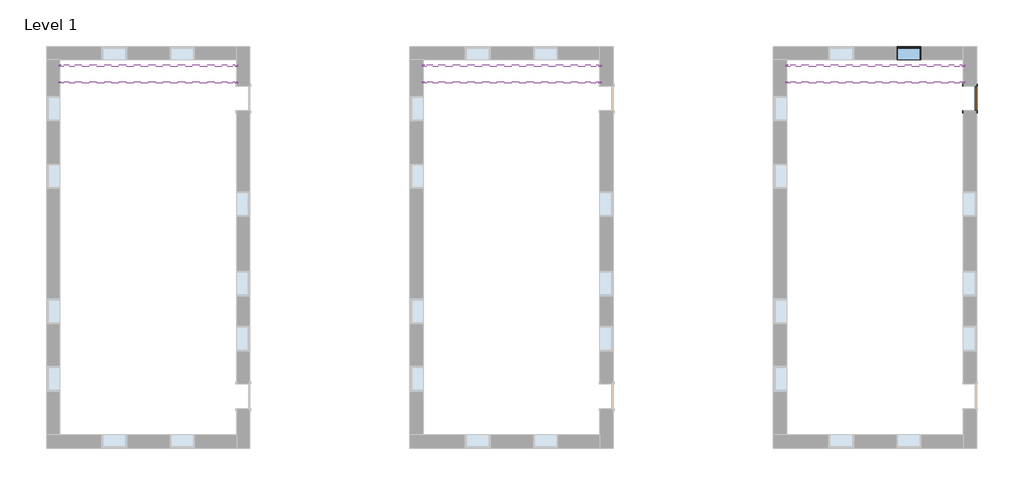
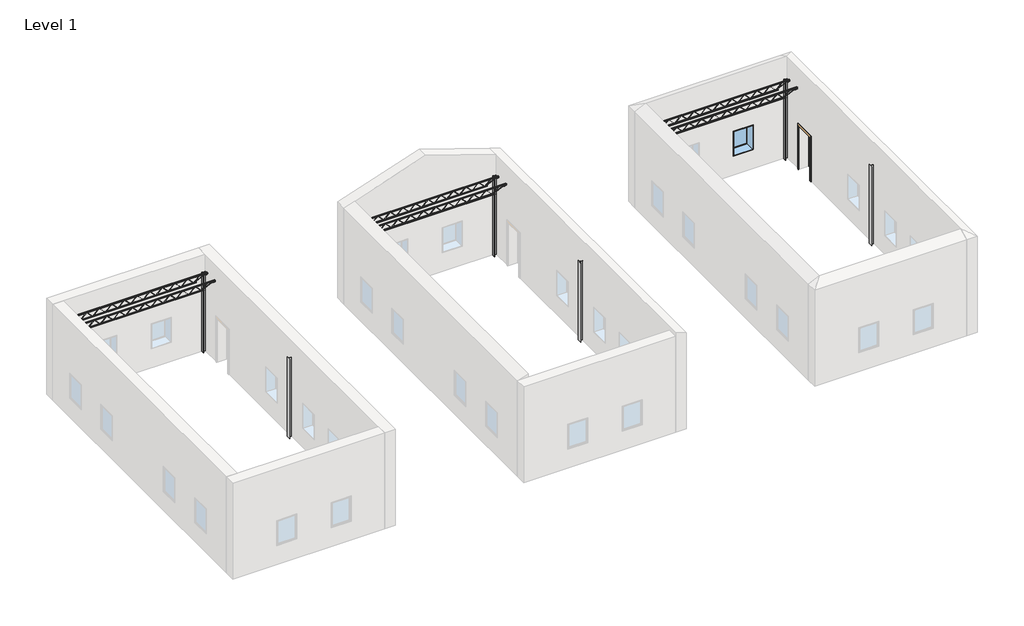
# One storey, part 2 of 2: 18 columns, 6 beams, 1 door, 1 window.
"""IFC4 building model written with IfcOpenShell, lengths in millimetres."""

from ifc_helpers import new_model, si_unit, point, frame_2d, origin, origin_with_axes, place, context, project, spatial, polyline, circle_curve, trimmed, segment, composite_curve, outline, extrude, transform, mapped, element, save
from components import k_series_bar_joist_rod_web_12k1_aec08bc9, door_7d4dd929, window_eeedf783

model = new_model("IFC4")

# Units and contexts
model_context = context("Model", 3, world=origin())
ifc_project = project(units=[si_unit("LENGTHUNIT", "METRE", prefix="MILLI")], contexts=[model_context])

# Site, building, storey
site = spatial("IfcSite", under=ifc_project)
building = spatial("IfcBuilding", under=site)
storey = spatial("IfcBuildingStorey", under=building, Name="Level 1", Elevation=0.0)

# Beams
placement = place(None, origin())
k_series_bar_joist_rod_web_12k1_shape = k_series_bar_joist_rod_web_12k1_aec08bc9(model_context)
element("IfcBeam", 1, ObjectType="K-Series Bar Joist-Rod Web : 12K1", at=placement, inside=storey, context=model_context, shape_type="MappedRepresentation", body=[
    mapped(k_series_bar_joist_rod_web_12k1_shape, transform((-24771.7944089, 9092.3351523, 3771.9), x_axis=(1.0, 0.0, 0.0), y_axis=(0.0, 1.0, 0.0), z_axis=(0.0, 0.0, 1.0))),
])
element("IfcBeam", 2, ObjectType="K-Series Bar Joist-Rod Web : 12K1", at=placement, inside=storey, context=model_context, shape_type="MappedRepresentation", body=[
    mapped(k_series_bar_joist_rod_web_12k1_shape, transform((-24771.7944089, 9701.9351523, 3771.9), x_axis=(1.0, 0.0, 0.0), y_axis=(0.0, 1.0, 0.0), z_axis=(0.0, 0.0, 1.0))),
])
element("IfcBeam", 3, ObjectType="K-Series Bar Joist-Rod Web : 12K1", at=placement, inside=storey, context=model_context, shape_type="MappedRepresentation", body=[
    mapped(k_series_bar_joist_rod_web_12k1_shape, transform((-11360.5944089, 9092.3351523, 3771.9), x_axis=(1.0, 0.0, 0.0), y_axis=(0.0, 1.0, 0.0), z_axis=(0.0, 0.0, 1.0))),
])
element("IfcBeam", 4, ObjectType="K-Series Bar Joist-Rod Web : 12K1", at=placement, inside=storey, context=model_context, shape_type="MappedRepresentation", body=[
    mapped(k_series_bar_joist_rod_web_12k1_shape, transform((-11360.5944089, 9701.9351523, 3771.9), x_axis=(1.0, 0.0, 0.0), y_axis=(0.0, 1.0, 0.0), z_axis=(0.0, 0.0, 1.0))),
])
element("IfcBeam", 5, ObjectType="K-Series Bar Joist-Rod Web : 12K1", at=placement, inside=storey, context=model_context, shape_type="MappedRepresentation", body=[
    mapped(k_series_bar_joist_rod_web_12k1_shape, transform((2050.6055911, 9092.3351523, 3771.9), x_axis=(1.0, 0.0, 0.0), y_axis=(0.0, 1.0, 0.0), z_axis=(0.0, 0.0, 1.0))),
])
element("IfcBeam", 6, ObjectType="K-Series Bar Joist-Rod Web : 12K1", at=placement, inside=storey, context=model_context, shape_type="MappedRepresentation", body=[
    mapped(k_series_bar_joist_rod_web_12k1_shape, transform((2050.6055911, 9701.9351523, 3771.9), x_axis=(1.0, 0.0, 0.0), y_axis=(0.0, 1.0, 0.0), z_axis=(0.0, 0.0, 1.0))),
])

# Columns
element("IfcColumn", 7, ObjectType="W-Wide Flange-Column1 : W10X33 2", at=placement, inside=storey, context=model_context, shape_type="SweptSolid", body=[
    extrude(outline(composite_curve([segment(polyline([(-21669.571362, -3785.9609414), (-21658.5580808, -3785.9609414), (-21658.5580808, -3865.8320352)]), True, "CONTINUOUS"), segment(trimmed(circle_curve(frame_2d((-21640.996362, -3865.8320352)), 17.5617188), [point((-21658.5580808, -3865.8320352))], [point((-21640.996362, -3883.3937539))], True, "CARTESIAN"), True, "CONTINUOUS"), segment(polyline([(-21640.996362, -3883.3937539), (-21450.9924558, -3883.3937539)]), True, "CONTINUOUS"), segment(trimmed(circle_curve(frame_2d((-21450.9924558, -3865.8320352)), 17.5617188), [point((-21450.9924558, -3883.3937539))], [point((-21433.430737, -3865.8320352))], True, "CARTESIAN"), True, "CONTINUOUS"), segment(polyline([(-21433.430737, -3865.8320352), (-21433.430737, -3785.9609414), (-21422.4174558, -3785.9609414), (-21422.4174558, -3988.1687539), (-21433.430737, -3988.1687539), (-21433.430737, -3908.2976602)]), True, "CONTINUOUS"), segment(trimmed(circle_curve(frame_2d((-21450.9924558, -3908.2976602)), 17.5617187), [point((-21433.430737, -3908.2976602))], [point((-21450.9924558, -3890.7359414))], True, "CARTESIAN"), True, "CONTINUOUS"), segment(polyline([(-21450.9924558, -3890.7359414), (-21640.996362, -3890.7359414)]), True, "CONTINUOUS"), segment(trimmed(circle_curve(frame_2d((-21640.996362, -3908.2976602)), 17.5617188), [point((-21640.996362, -3890.7359414))], [point((-21658.5580808, -3908.2976602))], True, "CARTESIAN"), True, "CONTINUOUS"), segment(polyline([(-21658.5580808, -3908.2976602), (-21658.5580808, -3988.1687539), (-21669.571362, -3988.1687539), (-21669.571362, -3785.9609414)]), True, "CONTINUOUS")], self_intersect=False)), origin_with_axes(), (0.0, 0.0, 1.0), 3860.8),
])
element("IfcColumn", 8, ObjectType="W-Wide Flange-Column1 : W10X33 2", at=placement, inside=storey, context=model_context, shape_type="SweptSolid", body=[
    extrude(outline(composite_curve([segment(polyline([(-28121.171362, 3097.4390586), (-28110.1580808, 3097.4390586), (-28110.1580808, 3017.5679648)]), True, "CONTINUOUS"), segment(trimmed(circle_curve(frame_2d((-28092.596362, 3017.5679648)), 17.5617188), [point((-28110.1580808, 3017.5679648))], [point((-28092.596362, 3000.0062461))], True, "CARTESIAN"), True, "CONTINUOUS"), segment(polyline([(-28092.596362, 3000.0062461), (-27902.5924558, 3000.0062461)]), True, "CONTINUOUS"), segment(trimmed(circle_curve(frame_2d((-27902.5924558, 3017.5679648)), 17.5617188), [point((-27902.5924558, 3000.0062461))], [point((-27885.030737, 3017.5679648))], True, "CARTESIAN"), True, "CONTINUOUS"), segment(polyline([(-27885.030737, 3017.5679648), (-27885.030737, 3097.4390586), (-27874.0174558, 3097.4390586), (-27874.0174558, 2895.2312461), (-27885.030737, 2895.2312461), (-27885.030737, 2975.1023398)]), True, "CONTINUOUS"), segment(trimmed(circle_curve(frame_2d((-27902.5924558, 2975.1023398)), 17.5617187), [point((-27885.030737, 2975.1023398))], [point((-27902.5924558, 2992.6640586))], True, "CARTESIAN"), True, "CONTINUOUS"), segment(polyline([(-27902.5924558, 2992.6640586), (-28092.596362, 2992.6640586)]), True, "CONTINUOUS"), segment(trimmed(circle_curve(frame_2d((-28092.596362, 2975.1023398)), 17.5617188), [point((-28092.596362, 2992.6640586))], [point((-28110.1580808, 2975.1023398))], True, "CARTESIAN"), True, "CONTINUOUS"), segment(polyline([(-28110.1580808, 2975.1023398), (-28110.1580808, 2895.2312461), (-28121.171362, 2895.2312461), (-28121.171362, 3097.4390586)]), True, "CONTINUOUS")], self_intersect=False)), origin_with_axes(), (0.0, 0.0, 1.0), 3987.8),
])
element("IfcColumn", 9, ObjectType="W-Wide Flange-Column1 : W10X33 2", at=placement, inside=storey, context=model_context, shape_type="SweptSolid", body=[
    extrude(outline(composite_curve([segment(polyline([(-28121.171362, -3785.9609414), (-28110.1580808, -3785.9609414), (-28110.1580808, -3865.8320352)]), True, "CONTINUOUS"), segment(trimmed(circle_curve(frame_2d((-28092.596362, -3865.8320352)), 17.5617188), [point((-28110.1580808, -3865.8320352))], [point((-28092.596362, -3883.3937539))], True, "CARTESIAN"), True, "CONTINUOUS"), segment(polyline([(-28092.596362, -3883.3937539), (-27902.5924558, -3883.3937539)]), True, "CONTINUOUS"), segment(trimmed(circle_curve(frame_2d((-27902.5924558, -3865.8320352)), 17.5617188), [point((-27902.5924558, -3883.3937539))], [point((-27885.030737, -3865.8320352))], True, "CARTESIAN"), True, "CONTINUOUS"), segment(polyline([(-27885.030737, -3865.8320352), (-27885.030737, -3785.9609414), (-27874.0174558, -3785.9609414), (-27874.0174558, -3988.1687539), (-27885.030737, -3988.1687539), (-27885.030737, -3908.2976602)]), True, "CONTINUOUS"), segment(trimmed(circle_curve(frame_2d((-27902.5924558, -3908.2976602)), 17.5617187), [point((-27885.030737, -3908.2976602))], [point((-27902.5924558, -3890.7359414))], True, "CARTESIAN"), True, "CONTINUOUS"), segment(polyline([(-27902.5924558, -3890.7359414), (-28092.596362, -3890.7359414)]), True, "CONTINUOUS"), segment(trimmed(circle_curve(frame_2d((-28092.596362, -3908.2976602)), 17.5617188), [point((-28092.596362, -3890.7359414))], [point((-28110.1580808, -3908.2976602))], True, "CARTESIAN"), True, "CONTINUOUS"), segment(polyline([(-28110.1580808, -3908.2976602), (-28110.1580808, -3988.1687539), (-28121.171362, -3988.1687539), (-28121.171362, -3785.9609414)]), True, "CONTINUOUS")], self_intersect=False)), origin_with_axes(), (0.0, 0.0, 1.0), 3987.8),
])
element("IfcColumn", 10, ObjectType="W-Wide Flange-Column1 : W10X33 2", at=placement, inside=storey, context=model_context, shape_type="SweptSolid", body=[
    extrude(outline(composite_curve([segment(polyline([(-21669.571362, 3097.4390586), (-21658.5580808, 3097.4390586), (-21658.5580808, 3017.5679648)]), True, "CONTINUOUS"), segment(trimmed(circle_curve(frame_2d((-21640.996362, 3017.5679648)), 17.5617188), [point((-21658.5580808, 3017.5679648))], [point((-21640.996362, 3000.0062461))], True, "CARTESIAN"), True, "CONTINUOUS"), segment(polyline([(-21640.996362, 3000.0062461), (-21450.9924558, 3000.0062461)]), True, "CONTINUOUS"), segment(trimmed(circle_curve(frame_2d((-21450.9924558, 3017.5679648)), 17.5617188), [point((-21450.9924558, 3000.0062461))], [point((-21433.430737, 3017.5679648))], True, "CARTESIAN"), True, "CONTINUOUS"), segment(polyline([(-21433.430737, 3017.5679648), (-21433.430737, 3097.4390586), (-21422.4174558, 3097.4390586), (-21422.4174558, 2895.2312461), (-21433.430737, 2895.2312461), (-21433.430737, 2975.1023398)]), True, "CONTINUOUS"), segment(trimmed(circle_curve(frame_2d((-21450.9924558, 2975.1023398)), 17.5617187), [point((-21433.430737, 2975.1023398))], [point((-21450.9924558, 2992.6640586))], True, "CARTESIAN"), True, "CONTINUOUS"), segment(polyline([(-21450.9924558, 2992.6640586), (-21640.996362, 2992.6640586)]), True, "CONTINUOUS"), segment(trimmed(circle_curve(frame_2d((-21640.996362, 2975.1023398)), 17.5617188), [point((-21640.996362, 2992.6640586))], [point((-21658.5580808, 2975.1023398))], True, "CARTESIAN"), True, "CONTINUOUS"), segment(polyline([(-21658.5580808, 2975.1023398), (-21658.5580808, 2895.2312461), (-21669.571362, 2895.2312461), (-21669.571362, 3097.4390586)]), True, "CONTINUOUS")], self_intersect=False)), origin_with_axes(), (0.0, 0.0, 1.0), 3860.8),
])
element("IfcColumn", 11, ObjectType="W-Wide Flange-Column1 : W10X33 2", at=placement, inside=storey, context=model_context, shape_type="SweptSolid", body=[
    extrude(outline(composite_curve([segment(polyline([(-28121.171362, 9980.8390586), (-28110.1580808, 9980.8390586), (-28110.1580808, 9900.9679648)]), True, "CONTINUOUS"), segment(trimmed(circle_curve(frame_2d((-28092.596362, 9900.9679648)), 17.5617188), [point((-28110.1580808, 9900.9679648))], [point((-28092.596362, 9883.4062461))], True, "CARTESIAN"), True, "CONTINUOUS"), segment(polyline([(-28092.596362, 9883.4062461), (-27902.5924558, 9883.4062461)]), True, "CONTINUOUS"), segment(trimmed(circle_curve(frame_2d((-27902.5924558, 9900.9679648)), 17.5617188), [point((-27902.5924558, 9883.4062461))], [point((-27885.030737, 9900.9679648))], True, "CARTESIAN"), True, "CONTINUOUS"), segment(polyline([(-27885.030737, 9900.9679648), (-27885.030737, 9980.8390586), (-27874.0174558, 9980.8390586), (-27874.0174558, 9778.6312461), (-27885.030737, 9778.6312461), (-27885.030737, 9858.5023398)]), True, "CONTINUOUS"), segment(trimmed(circle_curve(frame_2d((-27902.5924558, 9858.5023398)), 17.5617187), [point((-27885.030737, 9858.5023398))], [point((-27902.5924558, 9876.0640586))], True, "CARTESIAN"), True, "CONTINUOUS"), segment(polyline([(-27902.5924558, 9876.0640586), (-28092.596362, 9876.0640586)]), True, "CONTINUOUS"), segment(trimmed(circle_curve(frame_2d((-28092.596362, 9858.5023398)), 17.5617188), [point((-28092.596362, 9876.0640586))], [point((-28110.1580808, 9858.5023398))], True, "CARTESIAN"), True, "CONTINUOUS"), segment(polyline([(-28110.1580808, 9858.5023398), (-28110.1580808, 9778.6312461), (-28121.171362, 9778.6312461), (-28121.171362, 9980.8390586)]), True, "CONTINUOUS")], self_intersect=False)), origin_with_axes(), (0.0, 0.0, 1.0), 3987.8),
])
element("IfcColumn", 12, ObjectType="W-Wide Flange-Column1 : W10X33 2", at=placement, inside=storey, context=model_context, shape_type="SweptSolid", body=[
    extrude(outline(composite_curve([segment(polyline([(-21669.571362, 9980.8390586), (-21658.5580808, 9980.8390586), (-21658.5580808, 9900.9679648)]), True, "CONTINUOUS"), segment(trimmed(circle_curve(frame_2d((-21640.996362, 9900.9679648)), 17.5617188), [point((-21658.5580808, 9900.9679648))], [point((-21640.996362, 9883.4062461))], True, "CARTESIAN"), True, "CONTINUOUS"), segment(polyline([(-21640.996362, 9883.4062461), (-21450.9924558, 9883.4062461)]), True, "CONTINUOUS"), segment(trimmed(circle_curve(frame_2d((-21450.9924558, 9900.9679648)), 17.5617188), [point((-21450.9924558, 9883.4062461))], [point((-21433.430737, 9900.9679648))], True, "CARTESIAN"), True, "CONTINUOUS"), segment(polyline([(-21433.430737, 9900.9679648), (-21433.430737, 9980.8390586), (-21422.4174558, 9980.8390586), (-21422.4174558, 9778.6312461), (-21433.430737, 9778.6312461), (-21433.430737, 9858.5023398)]), True, "CONTINUOUS"), segment(trimmed(circle_curve(frame_2d((-21450.9924558, 9858.5023398)), 17.5617187), [point((-21433.430737, 9858.5023398))], [point((-21450.9924558, 9876.0640586))], True, "CARTESIAN"), True, "CONTINUOUS"), segment(polyline([(-21450.9924558, 9876.0640586), (-21640.996362, 9876.0640586)]), True, "CONTINUOUS"), segment(trimmed(circle_curve(frame_2d((-21640.996362, 9858.5023398)), 17.5617188), [point((-21640.996362, 9876.0640586))], [point((-21658.5580808, 9858.5023398))], True, "CARTESIAN"), True, "CONTINUOUS"), segment(polyline([(-21658.5580808, 9858.5023398), (-21658.5580808, 9778.6312461), (-21669.571362, 9778.6312461), (-21669.571362, 9980.8390586)]), True, "CONTINUOUS")], self_intersect=False)), origin_with_axes(), (0.0, 0.0, 1.0), 3860.8),
])
element("IfcColumn", 13, ObjectType="W-Wide Flange-Column1 : W10X33 2", at=placement, inside=storey, context=model_context, shape_type="SweptSolid", body=[
    extrude(outline(composite_curve([segment(polyline([(-8258.371362, -3785.9609414), (-8247.3580808, -3785.9609414), (-8247.3580808, -3865.8320352)]), True, "CONTINUOUS"), segment(trimmed(circle_curve(frame_2d((-8229.796362, -3865.8320352)), 17.5617188), [point((-8247.3580808, -3865.8320352))], [point((-8229.796362, -3883.3937539))], True, "CARTESIAN"), True, "CONTINUOUS"), segment(polyline([(-8229.796362, -3883.3937539), (-8039.7924558, -3883.3937539)]), True, "CONTINUOUS"), segment(trimmed(circle_curve(frame_2d((-8039.7924558, -3865.8320352)), 17.5617188), [point((-8039.7924558, -3883.3937539))], [point((-8022.230737, -3865.8320352))], True, "CARTESIAN"), True, "CONTINUOUS"), segment(polyline([(-8022.230737, -3865.8320352), (-8022.230737, -3785.9609414), (-8011.2174558, -3785.9609414), (-8011.2174558, -3988.1687539), (-8022.230737, -3988.1687539), (-8022.230737, -3908.2976602)]), True, "CONTINUOUS"), segment(trimmed(circle_curve(frame_2d((-8039.7924558, -3908.2976602)), 17.5617187), [point((-8022.230737, -3908.2976602))], [point((-8039.7924558, -3890.7359414))], True, "CARTESIAN"), True, "CONTINUOUS"), segment(polyline([(-8039.7924558, -3890.7359414), (-8229.796362, -3890.7359414)]), True, "CONTINUOUS"), segment(trimmed(circle_curve(frame_2d((-8229.796362, -3908.2976602)), 17.5617188), [point((-8229.796362, -3890.7359414))], [point((-8247.3580808, -3908.2976602))], True, "CARTESIAN"), True, "CONTINUOUS"), segment(polyline([(-8247.3580808, -3908.2976602), (-8247.3580808, -3988.1687539), (-8258.371362, -3988.1687539), (-8258.371362, -3785.9609414)]), True, "CONTINUOUS")], self_intersect=False)), origin_with_axes(), (0.0, 0.0, 1.0), 3860.8),
])
element("IfcColumn", 14, ObjectType="W-Wide Flange-Column1 : W10X33 2", at=placement, inside=storey, context=model_context, shape_type="SweptSolid", body=[
    extrude(outline(composite_curve([segment(polyline([(-14709.971362, 3097.4390586), (-14698.9580808, 3097.4390586), (-14698.9580808, 3017.5679648)]), True, "CONTINUOUS"), segment(trimmed(circle_curve(frame_2d((-14681.396362, 3017.5679648)), 17.5617188), [point((-14698.9580808, 3017.5679648))], [point((-14681.396362, 3000.0062461))], True, "CARTESIAN"), True, "CONTINUOUS"), segment(polyline([(-14681.396362, 3000.0062461), (-14491.3924558, 3000.0062461)]), True, "CONTINUOUS"), segment(trimmed(circle_curve(frame_2d((-14491.3924558, 3017.5679648)), 17.5617188), [point((-14491.3924558, 3000.0062461))], [point((-14473.830737, 3017.5679648))], True, "CARTESIAN"), True, "CONTINUOUS"), segment(polyline([(-14473.830737, 3017.5679648), (-14473.830737, 3097.4390586), (-14462.8174558, 3097.4390586), (-14462.8174558, 2895.2312461), (-14473.830737, 2895.2312461), (-14473.830737, 2975.1023398)]), True, "CONTINUOUS"), segment(trimmed(circle_curve(frame_2d((-14491.3924558, 2975.1023398)), 17.5617188), [point((-14473.830737, 2975.1023398))], [point((-14491.3924558, 2992.6640586))], True, "CARTESIAN"), True, "CONTINUOUS"), segment(polyline([(-14491.3924558, 2992.6640586), (-14681.396362, 2992.6640586)]), True, "CONTINUOUS"), segment(trimmed(circle_curve(frame_2d((-14681.396362, 2975.1023398)), 17.5617188), [point((-14681.396362, 2992.6640586))], [point((-14698.9580808, 2975.1023398))], True, "CARTESIAN"), True, "CONTINUOUS"), segment(polyline([(-14698.9580808, 2975.1023398), (-14698.9580808, 2895.2312461), (-14709.971362, 2895.2312461), (-14709.971362, 3097.4390586)]), True, "CONTINUOUS")], self_intersect=False)), origin_with_axes(), (0.0, 0.0, 1.0), 3987.8),
])
element("IfcColumn", 15, ObjectType="W-Wide Flange-Column1 : W10X33 2", at=placement, inside=storey, context=model_context, shape_type="SweptSolid", body=[
    extrude(outline(composite_curve([segment(polyline([(-14709.971362, -3785.9609414), (-14698.9580808, -3785.9609414), (-14698.9580808, -3865.8320352)]), True, "CONTINUOUS"), segment(trimmed(circle_curve(frame_2d((-14681.396362, -3865.8320352)), 17.5617188), [point((-14698.9580808, -3865.8320352))], [point((-14681.396362, -3883.3937539))], True, "CARTESIAN"), True, "CONTINUOUS"), segment(polyline([(-14681.396362, -3883.3937539), (-14491.3924558, -3883.3937539)]), True, "CONTINUOUS"), segment(trimmed(circle_curve(frame_2d((-14491.3924558, -3865.8320352)), 17.5617188), [point((-14491.3924558, -3883.3937539))], [point((-14473.830737, -3865.8320352))], True, "CARTESIAN"), True, "CONTINUOUS"), segment(polyline([(-14473.830737, -3865.8320352), (-14473.830737, -3785.9609414), (-14462.8174558, -3785.9609414), (-14462.8174558, -3988.1687539), (-14473.830737, -3988.1687539), (-14473.830737, -3908.2976602)]), True, "CONTINUOUS"), segment(trimmed(circle_curve(frame_2d((-14491.3924558, -3908.2976602)), 17.5617188), [point((-14473.830737, -3908.2976602))], [point((-14491.3924558, -3890.7359414))], True, "CARTESIAN"), True, "CONTINUOUS"), segment(polyline([(-14491.3924558, -3890.7359414), (-14681.396362, -3890.7359414)]), True, "CONTINUOUS"), segment(trimmed(circle_curve(frame_2d((-14681.396362, -3908.2976602)), 17.5617188), [point((-14681.396362, -3890.7359414))], [point((-14698.9580808, -3908.2976602))], True, "CARTESIAN"), True, "CONTINUOUS"), segment(polyline([(-14698.9580808, -3908.2976602), (-14698.9580808, -3988.1687539), (-14709.971362, -3988.1687539), (-14709.971362, -3785.9609414)]), True, "CONTINUOUS")], self_intersect=False)), origin_with_axes(), (0.0, 0.0, 1.0), 3987.8),
])
element("IfcColumn", 16, ObjectType="W-Wide Flange-Column1 : W10X33 2", at=placement, inside=storey, context=model_context, shape_type="SweptSolid", body=[
    extrude(outline(composite_curve([segment(polyline([(-8258.371362, 3097.4390586), (-8247.3580808, 3097.4390586), (-8247.3580808, 3017.5679648)]), True, "CONTINUOUS"), segment(trimmed(circle_curve(frame_2d((-8229.796362, 3017.5679648)), 17.5617188), [point((-8247.3580808, 3017.5679648))], [point((-8229.796362, 3000.0062461))], True, "CARTESIAN"), True, "CONTINUOUS"), segment(polyline([(-8229.796362, 3000.0062461), (-8039.7924558, 3000.0062461)]), True, "CONTINUOUS"), segment(trimmed(circle_curve(frame_2d((-8039.7924558, 3017.5679648)), 17.5617188), [point((-8039.7924558, 3000.0062461))], [point((-8022.230737, 3017.5679648))], True, "CARTESIAN"), True, "CONTINUOUS"), segment(polyline([(-8022.230737, 3017.5679648), (-8022.230737, 3097.4390586), (-8011.2174558, 3097.4390586), (-8011.2174558, 2895.2312461), (-8022.230737, 2895.2312461), (-8022.230737, 2975.1023398)]), True, "CONTINUOUS"), segment(trimmed(circle_curve(frame_2d((-8039.7924558, 2975.1023398)), 17.5617187), [point((-8022.230737, 2975.1023398))], [point((-8039.7924558, 2992.6640586))], True, "CARTESIAN"), True, "CONTINUOUS"), segment(polyline([(-8039.7924558, 2992.6640586), (-8229.796362, 2992.6640586)]), True, "CONTINUOUS"), segment(trimmed(circle_curve(frame_2d((-8229.796362, 2975.1023398)), 17.5617188), [point((-8229.796362, 2992.6640586))], [point((-8247.3580808, 2975.1023398))], True, "CARTESIAN"), True, "CONTINUOUS"), segment(polyline([(-8247.3580808, 2975.1023398), (-8247.3580808, 2895.2312461), (-8258.371362, 2895.2312461), (-8258.371362, 3097.4390586)]), True, "CONTINUOUS")], self_intersect=False)), origin_with_axes(), (0.0, 0.0, 1.0), 3860.8),
])
element("IfcColumn", 17, ObjectType="W-Wide Flange-Column1 : W10X33 2", at=placement, inside=storey, context=model_context, shape_type="SweptSolid", body=[
    extrude(outline(composite_curve([segment(polyline([(-14709.971362, 9980.8390586), (-14698.9580808, 9980.8390586), (-14698.9580808, 9900.9679648)]), True, "CONTINUOUS"), segment(trimmed(circle_curve(frame_2d((-14681.396362, 9900.9679648)), 17.5617188), [point((-14698.9580808, 9900.9679648))], [point((-14681.396362, 9883.4062461))], True, "CARTESIAN"), True, "CONTINUOUS"), segment(polyline([(-14681.396362, 9883.4062461), (-14491.3924558, 9883.4062461)]), True, "CONTINUOUS"), segment(trimmed(circle_curve(frame_2d((-14491.3924558, 9900.9679648)), 17.5617188), [point((-14491.3924558, 9883.4062461))], [point((-14473.830737, 9900.9679648))], True, "CARTESIAN"), True, "CONTINUOUS"), segment(polyline([(-14473.830737, 9900.9679648), (-14473.830737, 9980.8390586), (-14462.8174558, 9980.8390586), (-14462.8174558, 9778.6312461), (-14473.830737, 9778.6312461), (-14473.830737, 9858.5023398)]), True, "CONTINUOUS"), segment(trimmed(circle_curve(frame_2d((-14491.3924558, 9858.5023398)), 17.5617188), [point((-14473.830737, 9858.5023398))], [point((-14491.3924558, 9876.0640586))], True, "CARTESIAN"), True, "CONTINUOUS"), segment(polyline([(-14491.3924558, 9876.0640586), (-14681.396362, 9876.0640586)]), True, "CONTINUOUS"), segment(trimmed(circle_curve(frame_2d((-14681.396362, 9858.5023398)), 17.5617188), [point((-14681.396362, 9876.0640586))], [point((-14698.9580808, 9858.5023398))], True, "CARTESIAN"), True, "CONTINUOUS"), segment(polyline([(-14698.9580808, 9858.5023398), (-14698.9580808, 9778.6312461), (-14709.971362, 9778.6312461), (-14709.971362, 9980.8390586)]), True, "CONTINUOUS")], self_intersect=False)), origin_with_axes(), (0.0, 0.0, 1.0), 3987.8),
])
element("IfcColumn", 18, ObjectType="W-Wide Flange-Column1 : W10X33 2", at=placement, inside=storey, context=model_context, shape_type="SweptSolid", body=[
    extrude(outline(composite_curve([segment(polyline([(-8258.371362, 9980.8390586), (-8247.3580808, 9980.8390586), (-8247.3580808, 9900.9679648)]), True, "CONTINUOUS"), segment(trimmed(circle_curve(frame_2d((-8229.796362, 9900.9679648)), 17.5617188), [point((-8247.3580808, 9900.9679648))], [point((-8229.796362, 9883.4062461))], True, "CARTESIAN"), True, "CONTINUOUS"), segment(polyline([(-8229.796362, 9883.4062461), (-8039.7924558, 9883.4062461)]), True, "CONTINUOUS"), segment(trimmed(circle_curve(frame_2d((-8039.7924558, 9900.9679648)), 17.5617188), [point((-8039.7924558, 9883.4062461))], [point((-8022.230737, 9900.9679648))], True, "CARTESIAN"), True, "CONTINUOUS"), segment(polyline([(-8022.230737, 9900.9679648), (-8022.230737, 9980.8390586), (-8011.2174558, 9980.8390586), (-8011.2174558, 9778.6312461), (-8022.230737, 9778.6312461), (-8022.230737, 9858.5023398)]), True, "CONTINUOUS"), segment(trimmed(circle_curve(frame_2d((-8039.7924558, 9858.5023398)), 17.5617187), [point((-8022.230737, 9858.5023398))], [point((-8039.7924558, 9876.0640586))], True, "CARTESIAN"), True, "CONTINUOUS"), segment(polyline([(-8039.7924558, 9876.0640586), (-8229.796362, 9876.0640586)]), True, "CONTINUOUS"), segment(trimmed(circle_curve(frame_2d((-8229.796362, 9858.5023398)), 17.5617188), [point((-8229.796362, 9876.0640586))], [point((-8247.3580808, 9858.5023398))], True, "CARTESIAN"), True, "CONTINUOUS"), segment(polyline([(-8247.3580808, 9858.5023398), (-8247.3580808, 9778.6312461), (-8258.371362, 9778.6312461), (-8258.371362, 9980.8390586)]), True, "CONTINUOUS")], self_intersect=False)), origin_with_axes(), (0.0, 0.0, 1.0), 3860.8),
])
element("IfcColumn", 19, ObjectType="W-Wide Flange-Column1 : W10X33 2", at=placement, inside=storey, context=model_context, shape_type="SweptSolid", body=[
    extrude(outline(composite_curve([segment(polyline([(5152.828638, -3785.9609414), (5163.8419192, -3785.9609414), (5163.8419192, -3865.8320352)]), True, "CONTINUOUS"), segment(trimmed(circle_curve(frame_2d((5181.403638, -3865.8320352)), 17.5617188), [point((5163.8419192, -3865.8320352))], [point((5181.403638, -3883.3937539))], True, "CARTESIAN"), True, "CONTINUOUS"), segment(polyline([(5181.403638, -3883.3937539), (5371.4075442, -3883.3937539)]), True, "CONTINUOUS"), segment(trimmed(circle_curve(frame_2d((5371.4075442, -3865.8320352)), 17.5617188), [point((5371.4075442, -3883.3937539))], [point((5388.969263, -3865.8320352))], True, "CARTESIAN"), True, "CONTINUOUS"), segment(polyline([(5388.969263, -3865.8320352), (5388.969263, -3785.9609414), (5399.9825442, -3785.9609414), (5399.9825442, -3988.1687539), (5388.969263, -3988.1687539), (5388.969263, -3908.2976602)]), True, "CONTINUOUS"), segment(trimmed(circle_curve(frame_2d((5371.4075442, -3908.2976602)), 17.5617187), [point((5388.969263, -3908.2976602))], [point((5371.4075442, -3890.7359414))], True, "CARTESIAN"), True, "CONTINUOUS"), segment(polyline([(5371.4075442, -3890.7359414), (5181.403638, -3890.7359414)]), True, "CONTINUOUS"), segment(trimmed(circle_curve(frame_2d((5181.403638, -3908.2976602)), 17.5617188), [point((5181.403638, -3890.7359414))], [point((5163.8419192, -3908.2976602))], True, "CARTESIAN"), True, "CONTINUOUS"), segment(polyline([(5163.8419192, -3908.2976602), (5163.8419192, -3988.1687539), (5152.828638, -3988.1687539), (5152.828638, -3785.9609414)]), True, "CONTINUOUS")], self_intersect=False)), origin_with_axes(), (0.0, 0.0, 1.0), 3860.8),
])
element("IfcColumn", 20, ObjectType="W-Wide Flange-Column1 : W10X33 2", at=placement, inside=storey, context=model_context, shape_type="SweptSolid", body=[
    extrude(outline(composite_curve([segment(polyline([(-1298.771362, 3097.4390586), (-1287.7580808, 3097.4390586), (-1287.7580808, 3017.5679648)]), True, "CONTINUOUS"), segment(trimmed(circle_curve(frame_2d((-1270.196362, 3017.5679648)), 17.5617187), [point((-1287.7580808, 3017.5679648))], [point((-1270.196362, 3000.0062461))], True, "CARTESIAN"), True, "CONTINUOUS"), segment(polyline([(-1270.196362, 3000.0062461), (-1080.1924558, 3000.0062461)]), True, "CONTINUOUS"), segment(trimmed(circle_curve(frame_2d((-1080.1924558, 3017.5679648)), 17.5617188), [point((-1080.1924558, 3000.0062461))], [point((-1062.630737, 3017.5679648))], True, "CARTESIAN"), True, "CONTINUOUS"), segment(polyline([(-1062.630737, 3017.5679648), (-1062.630737, 3097.4390586), (-1051.6174558, 3097.4390586), (-1051.6174558, 2895.2312461), (-1062.630737, 2895.2312461), (-1062.630737, 2975.1023398)]), True, "CONTINUOUS"), segment(trimmed(circle_curve(frame_2d((-1080.1924558, 2975.1023398)), 17.5617188), [point((-1062.630737, 2975.1023398))], [point((-1080.1924558, 2992.6640586))], True, "CARTESIAN"), True, "CONTINUOUS"), segment(polyline([(-1080.1924558, 2992.6640586), (-1270.196362, 2992.6640586)]), True, "CONTINUOUS"), segment(trimmed(circle_curve(frame_2d((-1270.196362, 2975.1023398)), 17.5617188), [point((-1270.196362, 2992.6640586))], [point((-1287.7580808, 2975.1023398))], True, "CARTESIAN"), True, "CONTINUOUS"), segment(polyline([(-1287.7580808, 2975.1023398), (-1287.7580808, 2895.2312461), (-1298.771362, 2895.2312461), (-1298.771362, 3097.4390586)]), True, "CONTINUOUS")], self_intersect=False)), origin_with_axes(), (0.0, 0.0, 1.0), 3987.8),
])
element("IfcColumn", 21, ObjectType="W-Wide Flange-Column1 : W10X33 2", at=placement, inside=storey, context=model_context, shape_type="SweptSolid", body=[
    extrude(outline(composite_curve([segment(polyline([(-1298.771362, -3785.9609414), (-1287.7580808, -3785.9609414), (-1287.7580808, -3865.8320352)]), True, "CONTINUOUS"), segment(trimmed(circle_curve(frame_2d((-1270.196362, -3865.8320352)), 17.5617187), [point((-1287.7580808, -3865.8320352))], [point((-1270.196362, -3883.3937539))], True, "CARTESIAN"), True, "CONTINUOUS"), segment(polyline([(-1270.196362, -3883.3937539), (-1080.1924558, -3883.3937539)]), True, "CONTINUOUS"), segment(trimmed(circle_curve(frame_2d((-1080.1924558, -3865.8320352)), 17.5617188), [point((-1080.1924558, -3883.3937539))], [point((-1062.630737, -3865.8320352))], True, "CARTESIAN"), True, "CONTINUOUS"), segment(polyline([(-1062.630737, -3865.8320352), (-1062.630737, -3785.9609414), (-1051.6174558, -3785.9609414), (-1051.6174558, -3988.1687539), (-1062.630737, -3988.1687539), (-1062.630737, -3908.2976602)]), True, "CONTINUOUS"), segment(trimmed(circle_curve(frame_2d((-1080.1924558, -3908.2976602)), 17.5617188), [point((-1062.630737, -3908.2976602))], [point((-1080.1924558, -3890.7359414))], True, "CARTESIAN"), True, "CONTINUOUS"), segment(polyline([(-1080.1924558, -3890.7359414), (-1270.196362, -3890.7359414)]), True, "CONTINUOUS"), segment(trimmed(circle_curve(frame_2d((-1270.196362, -3908.2976602)), 17.5617188), [point((-1270.196362, -3890.7359414))], [point((-1287.7580808, -3908.2976602))], True, "CARTESIAN"), True, "CONTINUOUS"), segment(polyline([(-1287.7580808, -3908.2976602), (-1287.7580808, -3988.1687539), (-1298.771362, -3988.1687539), (-1298.771362, -3785.9609414)]), True, "CONTINUOUS")], self_intersect=False)), origin_with_axes(), (0.0, 0.0, 1.0), 3987.8),
])
element("IfcColumn", 22, ObjectType="W-Wide Flange-Column1 : W10X33 2", at=placement, inside=storey, context=model_context, shape_type="SweptSolid", body=[
    extrude(outline(composite_curve([segment(polyline([(5152.828638, 3097.4390586), (5163.8419192, 3097.4390586), (5163.8419192, 3017.5679648)]), True, "CONTINUOUS"), segment(trimmed(circle_curve(frame_2d((5181.403638, 3017.5679648)), 17.5617188), [point((5163.8419192, 3017.5679648))], [point((5181.403638, 3000.0062461))], True, "CARTESIAN"), True, "CONTINUOUS"), segment(polyline([(5181.403638, 3000.0062461), (5371.4075442, 3000.0062461)]), True, "CONTINUOUS"), segment(trimmed(circle_curve(frame_2d((5371.4075442, 3017.5679648)), 17.5617188), [point((5371.4075442, 3000.0062461))], [point((5388.969263, 3017.5679648))], True, "CARTESIAN"), True, "CONTINUOUS"), segment(polyline([(5388.969263, 3017.5679648), (5388.969263, 3097.4390586), (5399.9825442, 3097.4390586), (5399.9825442, 2895.2312461), (5388.969263, 2895.2312461), (5388.969263, 2975.1023398)]), True, "CONTINUOUS"), segment(trimmed(circle_curve(frame_2d((5371.4075442, 2975.1023398)), 17.5617187), [point((5388.969263, 2975.1023398))], [point((5371.4075442, 2992.6640586))], True, "CARTESIAN"), True, "CONTINUOUS"), segment(polyline([(5371.4075442, 2992.6640586), (5181.403638, 2992.6640586)]), True, "CONTINUOUS"), segment(trimmed(circle_curve(frame_2d((5181.403638, 2975.1023398)), 17.5617188), [point((5181.403638, 2992.6640586))], [point((5163.8419192, 2975.1023398))], True, "CARTESIAN"), True, "CONTINUOUS"), segment(polyline([(5163.8419192, 2975.1023398), (5163.8419192, 2895.2312461), (5152.828638, 2895.2312461), (5152.828638, 3097.4390586)]), True, "CONTINUOUS")], self_intersect=False)), origin_with_axes(), (0.0, 0.0, 1.0), 3860.8),
])
element("IfcColumn", 23, ObjectType="W-Wide Flange-Column1 : W10X33 2", at=placement, inside=storey, context=model_context, shape_type="SweptSolid", body=[
    extrude(outline(composite_curve([segment(polyline([(-1298.771362, 9980.8390586), (-1287.7580808, 9980.8390586), (-1287.7580808, 9900.9679648)]), True, "CONTINUOUS"), segment(trimmed(circle_curve(frame_2d((-1270.196362, 9900.9679648)), 17.5617187), [point((-1287.7580808, 9900.9679648))], [point((-1270.196362, 9883.4062461))], True, "CARTESIAN"), True, "CONTINUOUS"), segment(polyline([(-1270.196362, 9883.4062461), (-1080.1924558, 9883.4062461)]), True, "CONTINUOUS"), segment(trimmed(circle_curve(frame_2d((-1080.1924558, 9900.9679648)), 17.5617188), [point((-1080.1924558, 9883.4062461))], [point((-1062.630737, 9900.9679648))], True, "CARTESIAN"), True, "CONTINUOUS"), segment(polyline([(-1062.630737, 9900.9679648), (-1062.630737, 9980.8390586), (-1051.6174558, 9980.8390586), (-1051.6174558, 9778.6312461), (-1062.630737, 9778.6312461), (-1062.630737, 9858.5023398)]), True, "CONTINUOUS"), segment(trimmed(circle_curve(frame_2d((-1080.1924558, 9858.5023398)), 17.5617188), [point((-1062.630737, 9858.5023398))], [point((-1080.1924558, 9876.0640586))], True, "CARTESIAN"), True, "CONTINUOUS"), segment(polyline([(-1080.1924558, 9876.0640586), (-1270.196362, 9876.0640586)]), True, "CONTINUOUS"), segment(trimmed(circle_curve(frame_2d((-1270.196362, 9858.5023398)), 17.5617188), [point((-1270.196362, 9876.0640586))], [point((-1287.7580808, 9858.5023398))], True, "CARTESIAN"), True, "CONTINUOUS"), segment(polyline([(-1287.7580808, 9858.5023398), (-1287.7580808, 9778.6312461), (-1298.771362, 9778.6312461), (-1298.771362, 9980.8390586)]), True, "CONTINUOUS")], self_intersect=False)), origin_with_axes(), (0.0, 0.0, 1.0), 3987.8),
])
element("IfcColumn", 24, ObjectType="W-Wide Flange-Column1 : W10X33 2", at=placement, inside=storey, context=model_context, shape_type="SweptSolid", body=[
    extrude(outline(composite_curve([segment(polyline([(5152.828638, 9980.8390586), (5163.8419192, 9980.8390586), (5163.8419192, 9900.9679648)]), True, "CONTINUOUS"), segment(trimmed(circle_curve(frame_2d((5181.403638, 9900.9679648)), 17.5617188), [point((5163.8419192, 9900.9679648))], [point((5181.403638, 9883.4062461))], True, "CARTESIAN"), True, "CONTINUOUS"), segment(polyline([(5181.403638, 9883.4062461), (5371.4075442, 9883.4062461)]), True, "CONTINUOUS"), segment(trimmed(circle_curve(frame_2d((5371.4075442, 9900.9679648)), 17.5617188), [point((5371.4075442, 9883.4062461))], [point((5388.969263, 9900.9679648))], True, "CARTESIAN"), True, "CONTINUOUS"), segment(polyline([(5388.969263, 9900.9679648), (5388.969263, 9980.8390586), (5399.9825442, 9980.8390586), (5399.9825442, 9778.6312461), (5388.969263, 9778.6312461), (5388.969263, 9858.5023398)]), True, "CONTINUOUS"), segment(trimmed(circle_curve(frame_2d((5371.4075442, 9858.5023398)), 17.5617187), [point((5388.969263, 9858.5023398))], [point((5371.4075442, 9876.0640586))], True, "CARTESIAN"), True, "CONTINUOUS"), segment(polyline([(5371.4075442, 9876.0640586), (5181.403638, 9876.0640586)]), True, "CONTINUOUS"), segment(trimmed(circle_curve(frame_2d((5181.403638, 9858.5023398)), 17.5617188), [point((5181.403638, 9876.0640586))], [point((5163.8419192, 9858.5023398))], True, "CARTESIAN"), True, "CONTINUOUS"), segment(polyline([(5163.8419192, 9858.5023398), (5163.8419192, 9778.6312461), (5152.828638, 9778.6312461), (5152.828638, 9980.8390586)]), True, "CONTINUOUS")], self_intersect=False)), origin_with_axes(), (0.0, 0.0, 1.0), 3860.8),
])

# Door
door_shape = door_7d4dd929(model_context)
element("IfcDoor", 25, ObjectType="Single-Flush : 36\" x 84\"", at=placement, inside=storey, context=model_context, shape_type="MappedRepresentation", body=[
    mapped(door_shape, transform((5555.8055911, 8498.6101523, 0.0), x_axis=(0.0, 1.0, 0.0), y_axis=(-1.0, 0.0, 0.0), z_axis=(0.0, 0.0, 1.0))),
])

# Window
window_shape = window_eeedf783(model_context)
element("IfcWindow", 26, ObjectType="Fixed : 36\" x 48\"", at=placement, inside=storey, context=model_context, shape_type="MappedRepresentation", body=[
    mapped(window_shape, transform((3263.4555911, 10171.8351523, 0.0), x_axis=(-1.0, 0.0, 0.0), y_axis=(0.0, -1.0, 0.0), z_axis=(0.0, 0.0, 1.0))),
])

save(model, "model.ifc")
